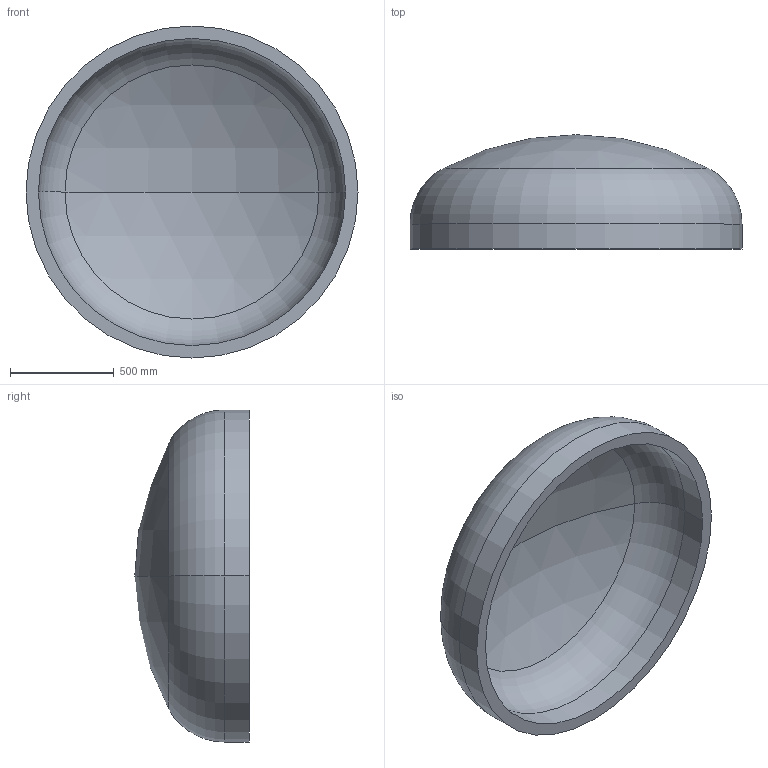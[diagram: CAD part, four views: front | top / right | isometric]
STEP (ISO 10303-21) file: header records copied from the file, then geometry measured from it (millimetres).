
FILE_DESCRIPTION (( 'STEP AP203' ), '1' );
FILE_NAME ('DIN 28013 Korbbogenform_-_Boden DIN 28013 - 1600 x 120 - I - s=60.step', '2016-07-01T11:21:45', ( '' ), ( '' ), 'SwSTEP 2.0', 'SolidWorks 2013', '' );
FILE_SCHEMA (( 'CONFIG_CONTROL_DESIGN' ));
Length unit declared in the file: millimetre
Products named in the file (1): DIN 28013 Korbbogenform_-_Boden DIN 28013 - 1600 x 120 - I - s=60
Bounding box: 1600 x 551.04 x 1600 mm (x, y, z)
Volume: 193791600 mm3; surface area: 6757541.2 mm2
Topology: 1 solids, 1 shells, 13 faces, 24 edges, 14 vertices
Faces by surface type: torus 4, cylinder 4, sphere 4, plane 1
Entity records: 407 total; most frequent: DIRECTION 72, CARTESIAN_POINT 52, ORIENTED_EDGE 48, AXIS2_PLACEMENT_3D 34, EDGE_CURVE 24, CIRCLE 20, VERTEX_POINT 14, EDGE_LOOP 14
